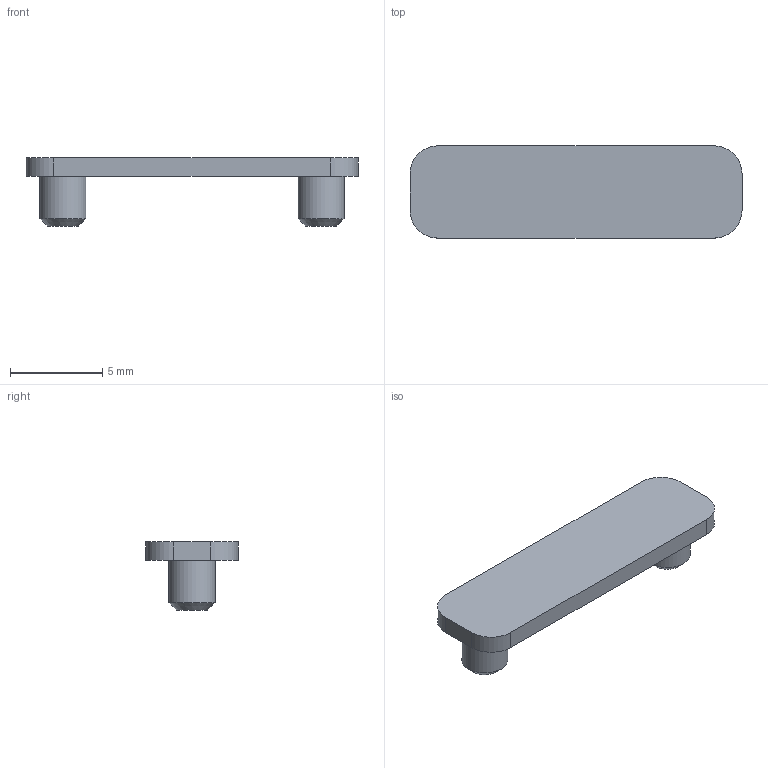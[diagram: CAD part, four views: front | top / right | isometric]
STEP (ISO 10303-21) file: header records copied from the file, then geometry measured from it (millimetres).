
FILE_DESCRIPTION(/* description */ ('Unknown'),/* implementation_level */ '2;1');
FILE_NAME(/* name */ 'track-joiner-O',/* time_stamp */ '2024-10-03T12:28:04-05:00',/* author */ ('Unknown'),/* organization */ ('Unknown'),/* preprocessor_version */ 'ST-DEVELOPER v18.102',/* originating_system */ 'Solid Edge',/* authorisation */ 'Unknown');
FILE_SCHEMA (('AUTOMOTIVE_DESIGN {1 0 10303 214 3 1 1}'));
Length unit declared in the file: millimetre
Products named in the file (1): track-joiner-O
Bounding box: 18 x 5 x 3.7 mm (x, y, z)
Volume: 113.5 mm3; surface area: 257.9 mm2
Topology: 1 solids, 1 shells, 16 faces, 34 edges, 22 vertices
Faces by surface type: plane 8, cylinder 6, cone 2
Full cylindrical faces by diameter (mm): 2.5 x2
Entity records: 446 total; most frequent: DIRECTION 78, CARTESIAN_POINT 69, ORIENTED_EDGE 60, AXIS2_PLACEMENT_3D 31, EDGE_CURVE 30, VERTEX_POINT 22, EDGE_LOOP 22, FACE_BOUND 22
